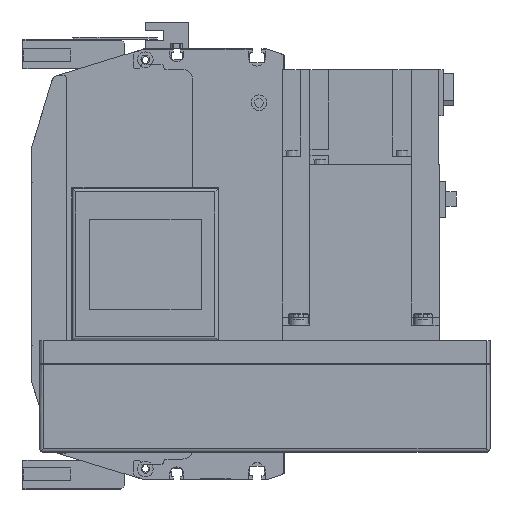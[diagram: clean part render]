
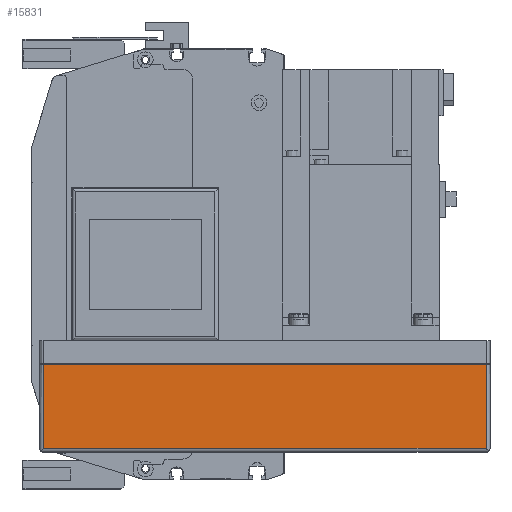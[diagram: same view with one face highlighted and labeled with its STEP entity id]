
A CAD part, left-side view. The second image highlights one B-rep face of the part: STEP entity #15831.
In plain terms, the highlighted planar face has unit normal (-1, 0, 0) as drawn and (0, 1, 0) by its records, which use the part's own axes.
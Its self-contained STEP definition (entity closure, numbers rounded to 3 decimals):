
#2676=ORIENTED_EDGE('',*,*,#6430,.F.);
#2677=ORIENTED_EDGE('',*,*,#6370,.T.);
#2678=ORIENTED_EDGE('',*,*,#6431,.F.);
#2679=ORIENTED_EDGE('',*,*,#6365,.F.);
#6365=EDGE_CURVE('',#8388,#8389,#10026,.T.);
#6370=EDGE_CURVE('',#8394,#8393,#10028,.T.);
#6430=EDGE_CURVE('',#8394,#8388,#10071,.T.);
#6431=EDGE_CURVE('',#8389,#8393,#10072,.T.);
#8388=VERTEX_POINT('',#24683);
#8389=VERTEX_POINT('',#24685);
#8393=VERTEX_POINT('',#24694);
#8394=VERTEX_POINT('',#24696);
#10026=LINE('',#24684,#11389);
#10028=LINE('',#24695,#11391);
#10071=LINE('',#24818,#11434);
#10072=LINE('',#24819,#11435);
#11389=VECTOR('',#19682,1000.);
#11391=VECTOR('',#19692,1000.);
#11434=VECTOR('',#19813,1000.);
#11435=VECTOR('',#19814,1000.);
#12606=EDGE_LOOP('',(#2676,#2677,#2678,#2679));
#13969=FACE_BOUND('',#12606,.T.);
#15170=PLANE('',#17003);
#15831=ADVANCED_FACE('',(#13969),#15170,.T.);
#17003=AXIS2_PLACEMENT_3D('',#24817,#19811,#19812);
#19682=DIRECTION('',(0.,0.,1.));
#19692=DIRECTION('',(0.,0.,1.));
#19811=DIRECTION('',(0.,1.,0.));
#19812=DIRECTION('',(0.,0.,1.));
#19813=DIRECTION('',(1.,0.,0.));
#19814=DIRECTION('',(-1.,0.,0.));
#24683=CARTESIAN_POINT('',(-2.,54.,-55.));
#24684=CARTESIAN_POINT('',(-2.,54.,-57.));
#24685=CARTESIAN_POINT('',(-2.,54.,-12.));
#24694=CARTESIAN_POINT('',(-228.,54.,-12.));
#24695=CARTESIAN_POINT('',(-228.,54.,-57.));
#24696=CARTESIAN_POINT('',(-228.,54.,-55.));
#24817=CARTESIAN_POINT('',(-2.,54.,-57.));
#24818=CARTESIAN_POINT('',(-230.,54.,-55.));
#24819=CARTESIAN_POINT('',(-2.,54.,-12.));
